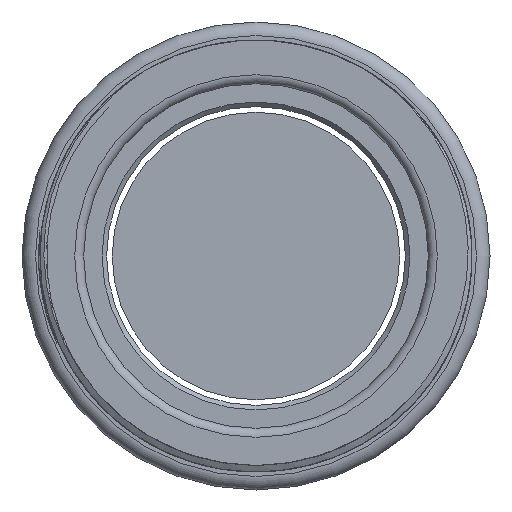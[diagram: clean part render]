
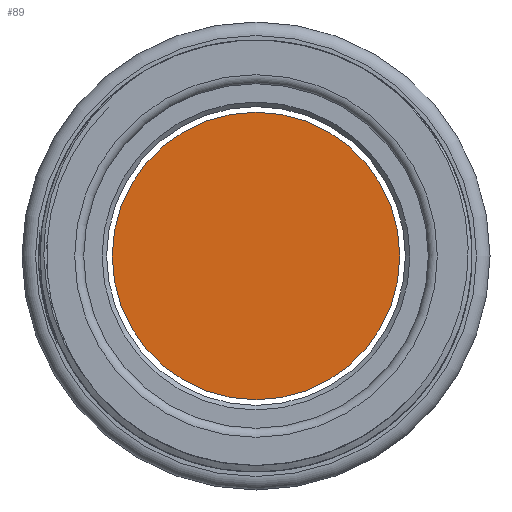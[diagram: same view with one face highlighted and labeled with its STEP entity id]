
A CAD part, front view. The second image highlights one B-rep face of the part: STEP entity #89.
In plain terms, the highlighted planar face has unit normal (0, -1, 0).
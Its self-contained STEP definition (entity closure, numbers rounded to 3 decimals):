
#70=PLANE('',#370);
#79=FACE_OUTER_BOUND('',#162,.T.);
#89=ADVANCED_FACE('',(#79),#70,.T.);
#162=EDGE_LOOP('',(#208));
#208=ORIENTED_EDGE('',*,*,#308,.T.);
#278=VERTEX_POINT('',#508);
#308=EDGE_CURVE('',#278,#278,#344,.T.);
#344=CIRCLE('',#367,15.975);
#367=AXIS2_PLACEMENT_3D('',#507,#415,#416);
#370=AXIS2_PLACEMENT_3D('',#511,#421,#422);
#415=DIRECTION('',(0.,-1.,0.));
#416=DIRECTION('',(1.,0.,0.));
#421=DIRECTION('',(0.,-1.,0.));
#422=DIRECTION('',(0.,0.,-1.));
#507=CARTESIAN_POINT('',(0.,-10.,0.));
#508=CARTESIAN_POINT('',(15.975,-10.,0.));
#511=CARTESIAN_POINT('',(0.,-10.,0.));
